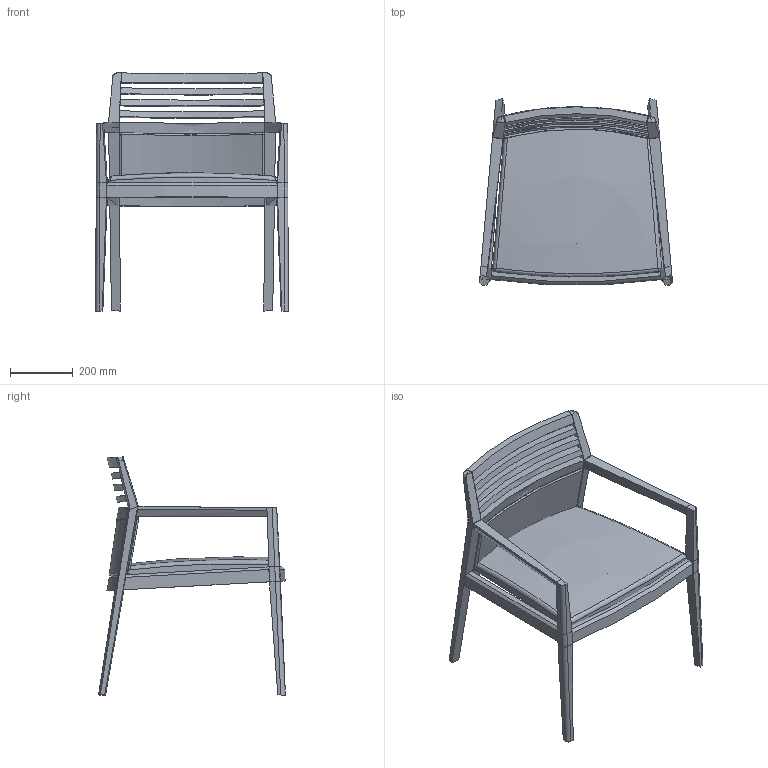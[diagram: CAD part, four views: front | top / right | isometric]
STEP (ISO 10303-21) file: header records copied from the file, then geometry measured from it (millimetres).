
FILE_DESCRIPTION(/* description */ ('','CAx-IF Rec.Pracs.---Representation and Presentation of Product Manufacturing Information (PMI)---4.0---2014-10-13'),/* implementation_level */ '2;1');
FILE_NAME(/* name */ 'Pentero_230_SU.step',/* time_stamp */ '2025-02-18T08:12:06-08:00',/* author */ (''),/* organization */ (''),/* preprocessor_version */ 'ST-DEVELOPER v20',/* originating_system */ 'Autodesk Translation Framework v13.20.0.188',/* authorisation */ '');
FILE_SCHEMA (('AP242_MANAGED_MODEL_BASED_3D_ENGINEERING_MIM_LF { 1 0 10303 442 1 1 4 }'));
Length unit declared in the file: inch
Products named in the file (1): 1
Bounding box: 614.51 x 595.72 x 759.04 mm (x, y, z)
Volume: 18287076.9 mm3; surface area: 1697851 mm2
Topology: 16 solids, 17 shells, 277 faces, 678 edges, 431 vertices
Faces by surface type: bspline 121, plane 80, cylinder 71, sphere 5
Full cylindrical faces by diameter (mm): 6 x2, 13.155 x2
Entity records: 11492 total; most frequent: CARTESIAN_POINT 5930, ORIENTED_EDGE 1331, DIRECTION 805, EDGE_CURVE 668, VERTEX_POINT 431, EDGE_LOOP 285, FACE_OUTER_BOUND 277, ADVANCED_FACE 277
